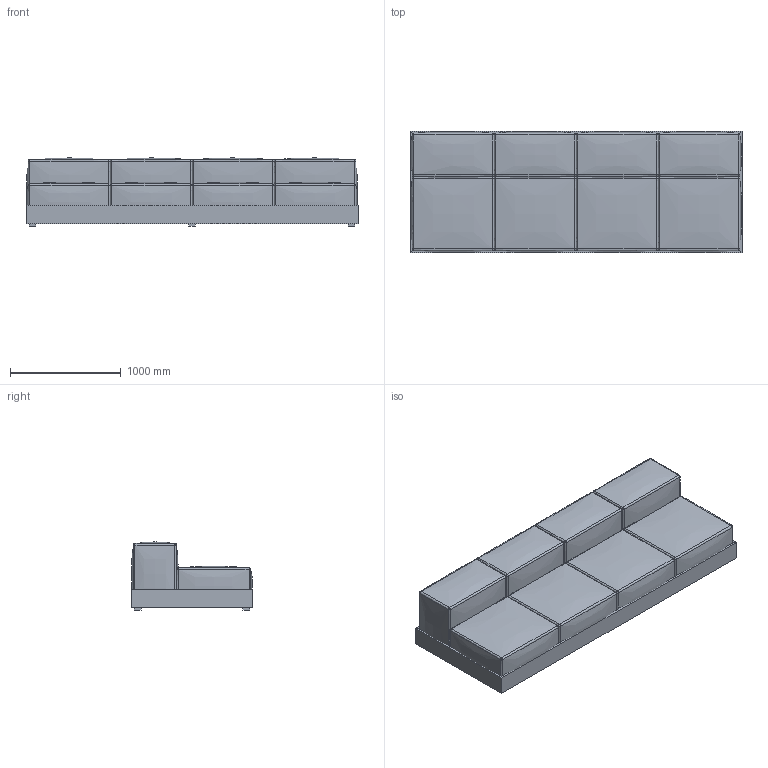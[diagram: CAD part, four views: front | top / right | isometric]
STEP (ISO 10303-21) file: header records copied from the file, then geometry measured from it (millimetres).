
FILE_DESCRIPTION(/* description */ (''),/* implementation_level */ '2;1');
FILE_NAME(/* name */ 'Polp1 300 nob4.step',/* time_stamp */ '2024-01-07T10:28:42+01:00',/* author */ (''),/* organization */ (''),/* preprocessor_version */ 'ST-DEVELOPER v20',/* originating_system */ 'Autodesk Translation Framework v12.14.0.127',/* authorisation */ '');
FILE_SCHEMA (('AUTOMOTIVE_DESIGN { 1 0 10303 214 3 1 1 }'));
Length unit declared in the file: millimetre
Products named in the file (9): Polp1 300 nob4; Component1; Component2; Component3; Component5; Component6; Component7; Component11; Component12
Assembly tree (8 placements, depth 2):
  Polp1 300 nob4
    Component1
    Component2
    Component3
    Component5
    Component6
    Component7
    Component11
    Component12
Bounding box: 3000 x 1100 x 615 mm (x, y, z)
Volume: 1410477864.8 mm3; surface area: 24463605.5 mm2
Topology: 24 solids, 24 shells, 304 faces, 576 edges, 320 vertices
Faces by surface type: plane 120, bspline 98, sphere 64, cylinder 22
Entity records: 18331 total; most frequent: CARTESIAN_POINT 12479, ORIENTED_EDGE 1152, DIRECTION 1066, EDGE_CURVE 576, AXIS2_PLACEMENT_3D 415, VERTEX_POINT 320, FACE_OUTER_BOUND 304, EDGE_LOOP 304
